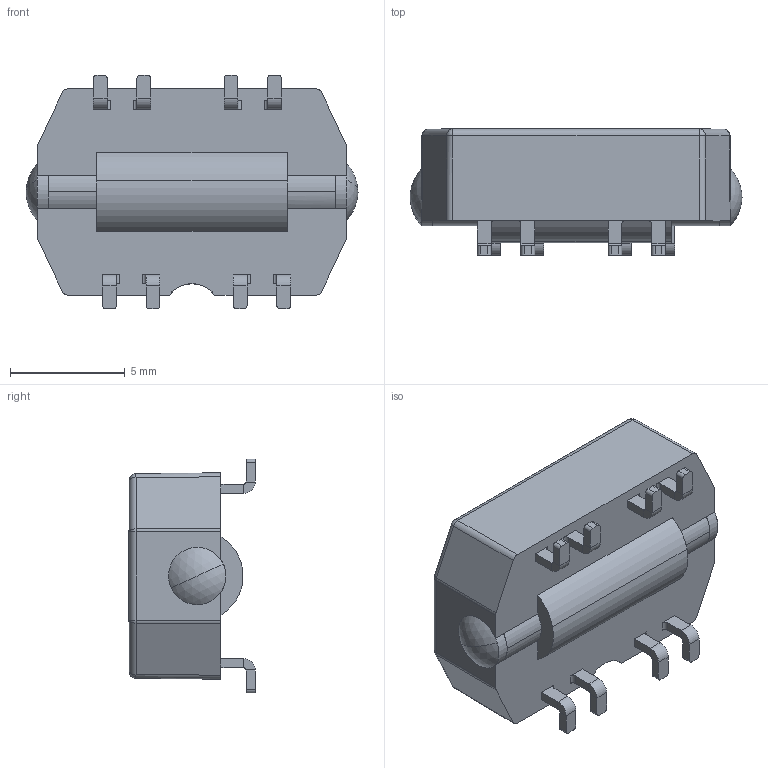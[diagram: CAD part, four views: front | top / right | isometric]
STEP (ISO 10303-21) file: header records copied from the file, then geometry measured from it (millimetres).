
FILE_DESCRIPTION (( 'STEP AP214' ), '1' );
FILE_NAME ('WS-Sensor-WS-WFS-0-X.STEP', '2021-06-15T16:00:03', ( '' ), ( '' ), 'SwSTEP 2.0', 'SolidWorks 2019', '' );
FILE_SCHEMA (( 'AUTOMOTIVE_DESIGN' ));
Length unit declared in the file: millimetre
Products named in the file (1): WS-Sensor-WS-WFS-0-X
Bounding box: 14.48 x 5.52 x 10.2 mm (x, y, z)
Volume: 484.7 mm3; surface area: 522 mm2
Topology: 2 solids, 2 shells, 229 faces, 790 edges, 600 vertices
Faces by surface type: plane 147, cylinder 67, sphere 12, cone 2, torus 1
Entity records: 11977 total; most frequent: CARTESIAN_POINT 2600, ORIENTED_EDGE 1564, DIRECTION 1295, EDGE_CURVE 782, VERTEX_POINT 600, LINE 557, VECTOR 557, AXIS2_PLACEMENT_3D 369
